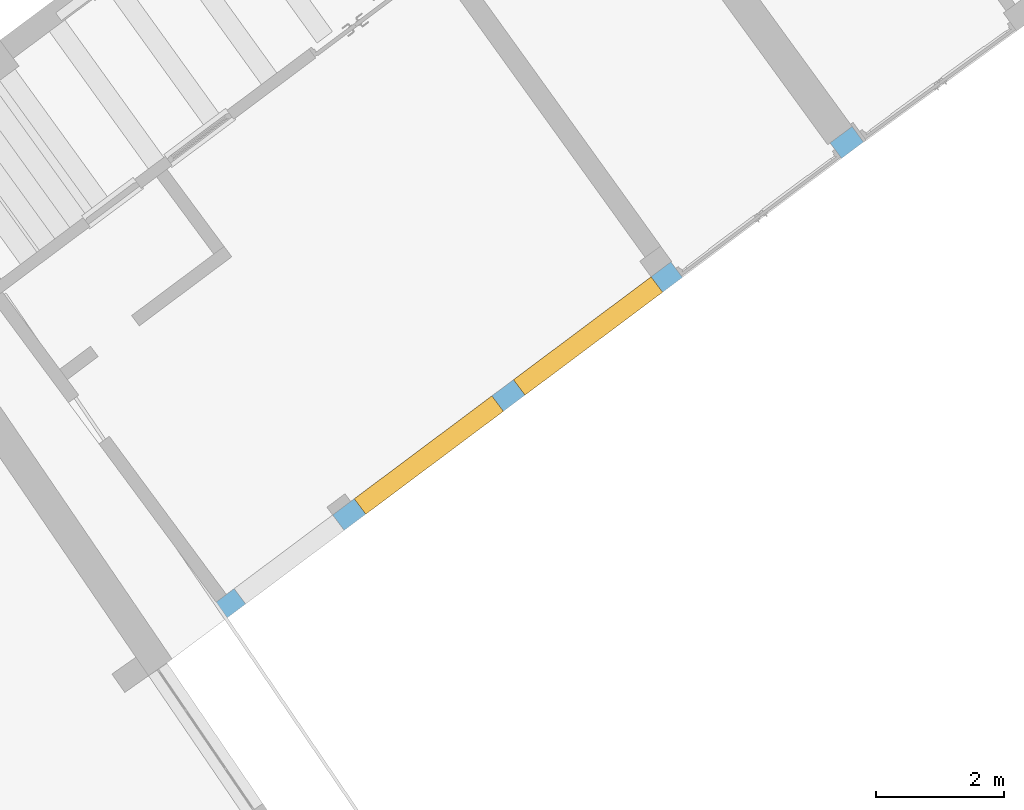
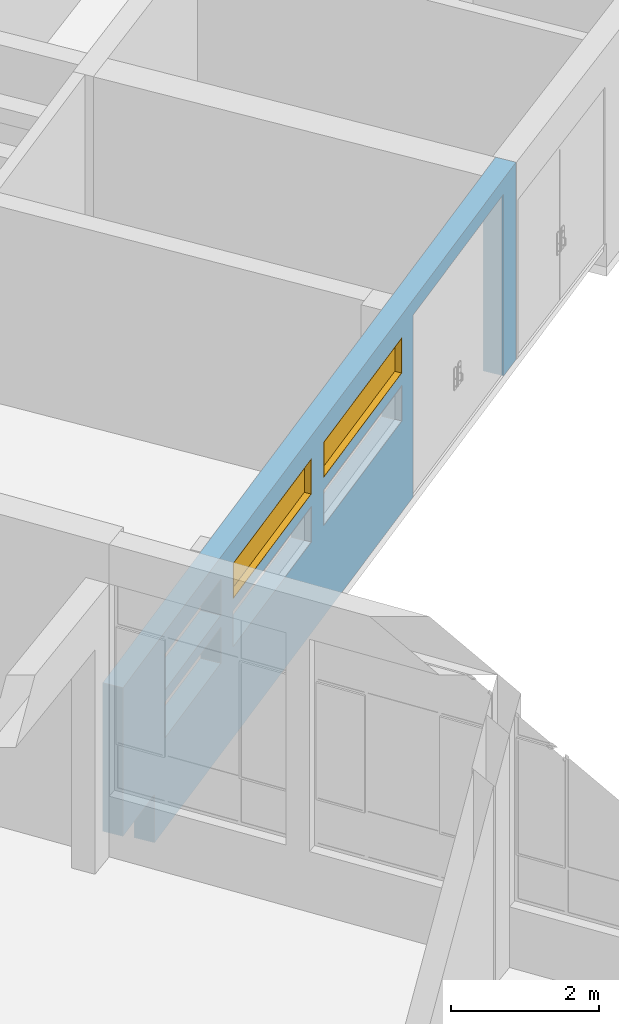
# One storey, part 137 of 157: 2 windows, 7 openings, plus 1 element that does not belong to this part.
"""IFC2X3 building model written with IfcOpenShell, lengths in millimetres."""

from ifc_helpers import new_model, entity, si_unit, converted_unit, derived_unit, direction, frame, frame_2d, origin, origin_2d_with_axis, place, context, subcontext, project, spatial, polyline, rectangle, outline, extrude, faceted_brep, source, transform, mapped, material, material_list, layer, layer_set, type_object, type_shapes, element, fill, save


model = new_model("IFC2X3")

# Units and contexts
model_context = context("Model", 3, precision=0.01, world=origin(), true_north=direction((6.123031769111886e-17, 1.0)))
body_context = subcontext(model_context, "Body", "Model", "MODEL_VIEW")
ifc_project = project(units=[si_unit("LENGTHUNIT", "METRE", prefix="MILLI"), si_unit("AREAUNIT", "SQUARE_METRE"), si_unit("VOLUMEUNIT", "CUBIC_METRE"), converted_unit("PLANEANGLEUNIT", "DEGREE", entity("IfcRatioMeasure", 0.017453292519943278), si_unit("PLANEANGLEUNIT", "RADIAN"), dimensions=[0, 0, 0, 0, 0, 0, 0]), si_unit("MASSUNIT", "GRAM", prefix="KILO"), derived_unit("MASSDENSITYUNIT", [(si_unit("MASSUNIT", "GRAM", prefix="KILO"), 1), (si_unit("LENGTHUNIT", "METRE"), -3)]), derived_unit("MOMENTOFINERTIAUNIT", [(si_unit("LENGTHUNIT", "METRE"), 4)]), si_unit("TIMEUNIT", "SECOND"), si_unit("FREQUENCYUNIT", "HERTZ"), si_unit("THERMODYNAMICTEMPERATUREUNIT", "DEGREE_CELSIUS"), derived_unit("THERMALTRANSMITTANCEUNIT", [(si_unit("MASSUNIT", "GRAM", prefix="KILO"), 1), (si_unit("THERMODYNAMICTEMPERATUREUNIT", "KELVIN"), -1), (si_unit("TIMEUNIT", "SECOND"), -3)]), derived_unit("THERMALCONDUCTANCEUNIT", [(si_unit("MASSUNIT", "GRAM", prefix="KILO"), 1), (si_unit("LENGTHUNIT", "METRE"), 1), (si_unit("THERMODYNAMICTEMPERATUREUNIT", "KELVIN"), -1), (si_unit("TIMEUNIT", "SECOND"), -3)]), derived_unit("VOLUMETRICFLOWRATEUNIT", [(si_unit("LENGTHUNIT", "METRE"), 3), (si_unit("TIMEUNIT", "SECOND"), -1)]), derived_unit("MASSFLOWRATEUNIT", [(si_unit("MASSUNIT", "GRAM", prefix="KILO"), 1), (si_unit("TIMEUNIT", "SECOND"), -1)]), derived_unit("ROTATIONALFREQUENCYUNIT", [(si_unit("TIMEUNIT", "SECOND"), -1)]), si_unit("ELECTRICCURRENTUNIT", "AMPERE"), si_unit("ELECTRICVOLTAGEUNIT", "VOLT"), si_unit("POWERUNIT", "WATT"), converted_unit("FORCEUNIT", "KIP", entity("IfcRatioMeasure", 2.088543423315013e-05), si_unit("FORCEUNIT", "NEWTON"), dimensions=[1, 1, -2, 0, 0, 0, 0]), si_unit("ILLUMINANCEUNIT", "LUX"), si_unit("LUMINOUSFLUXUNIT", "LUMEN"), si_unit("LUMINOUSINTENSITYUNIT", "CANDELA"), derived_unit("USERDEFINED", [(si_unit("MASSUNIT", "GRAM", prefix="KILO"), -1), (si_unit("LENGTHUNIT", "METRE"), -2), (si_unit("TIMEUNIT", "SECOND"), 3), (si_unit("LUMINOUSFLUXUNIT", "LUMEN"), 1)]), derived_unit("USERDEFINED", [(si_unit("MASSUNIT", "GRAM", prefix="KILO"), 1), (si_unit("LENGTHUNIT", "METRE"), 3), (si_unit("TIMEUNIT", "SECOND"), -3), (si_unit("ELECTRICCURRENTUNIT", "AMPERE"), -2)]), derived_unit("USERDEFINED", [(si_unit("LENGTHUNIT", "METRE"), 2), (si_unit("TIMEUNIT", "SECOND"), -2)]), derived_unit("SOUNDPOWERUNIT", [(si_unit("MASSUNIT", "GRAM", prefix="KILO"), 1), (si_unit("LENGTHUNIT", "METRE"), 2), (si_unit("TIMEUNIT", "SECOND"), -3)]), derived_unit("SOUNDPRESSUREUNIT", [(si_unit("MASSUNIT", "GRAM", prefix="KILO"), 1), (si_unit("LENGTHUNIT", "METRE"), -1), (si_unit("TIMEUNIT", "SECOND"), -2)]), derived_unit("LINEARVELOCITYUNIT", [(si_unit("LENGTHUNIT", "METRE"), 1), (si_unit("TIMEUNIT", "SECOND"), -1)]), si_unit("PRESSUREUNIT", "PASCAL"), derived_unit("USERDEFINED", [(si_unit("LENGTHUNIT", "METRE"), -2), (si_unit("MASSUNIT", "GRAM", prefix="KILO"), 1), (si_unit("TIMEUNIT", "SECOND"), -2)]), derived_unit("LINEARFORCEUNIT", [(si_unit("MASSUNIT", "GRAM", prefix="KILO"), 1), (si_unit("LENGTHUNIT", "METRE"), 1), (si_unit("TIMEUNIT", "SECOND"), -2), (si_unit("LENGTHUNIT", "METRE"), -1)]), derived_unit("PLANARFORCEUNIT", [(si_unit("MASSUNIT", "GRAM", prefix="KILO"), 1), (si_unit("LENGTHUNIT", "METRE"), 1), (si_unit("TIMEUNIT", "SECOND"), -2), (si_unit("LENGTHUNIT", "METRE"), -2)]), derived_unit("SPECIFICHEATCAPACITYUNIT", [(si_unit("LENGTHUNIT", "METRE"), 2), (si_unit("TIMEUNIT", "SECOND"), -2), (si_unit("THERMODYNAMICTEMPERATUREUNIT", "KELVIN"), -1)]), derived_unit("VAPORPERMEABILITYUNIT", [(si_unit("TIMEUNIT", "SECOND"), 1), (si_unit("LENGTHUNIT", "METRE"), -1)]), derived_unit("DYNAMICVISCOSITYUNIT", [(si_unit("MASSUNIT", "GRAM", prefix="KILO"), 1), (si_unit("LENGTHUNIT", "METRE"), -1), (si_unit("TIMEUNIT", "SECOND"), -1)]), derived_unit("THERMALEXPANSIONCOEFFICIENTUNIT", [(si_unit("THERMODYNAMICTEMPERATUREUNIT", "KELVIN"), -1)])], contexts=[model_context])

# Site, building, storey
site_placement = place(None, frame((0.0, 0.0, 0.0), z_axis=(0.0, 0.0, 1.0), x_axis=(0.8191520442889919, 0.5735764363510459, 0.0)))
site = spatial("IfcSite", under=ifc_project, at=site_placement, Name="Default", CompositionType="ELEMENT")
building_placement = place(site_placement, origin())
building = spatial("IfcBuilding", under=site, at=building_placement, CompositionType="ELEMENT")
storey_placement = place(building_placement, origin())
storey = spatial("IfcBuildingStorey", under=building, at=storey_placement, Name="1.EG +0.00", CompositionType="ELEMENT", Elevation=-4.331468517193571e-12)

# Wall, openings, windows
ifc_material_1 = material(Name="Analytical Wall Surface_CJC")
ifc_layer = layer(ifc_material_1, 300.0)
ifc_layer_set = layer_set([ifc_layer], Name="Basic Wall:Wand_Aussen_30")
wall_type = type_object("IfcWallType", Name="Basic Wall:Wand_Aussen_30", PredefinedType="STANDARD", material=ifc_layer_set)
wall_placement = place(storey_placement, frame((-204115.16931109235, 157974.41195440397, -750.0), z_axis=(0.0, 0.0, 1.0), x_axis=(0.9995120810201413, 0.031234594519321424, 0.0)))
wall = element("IfcWall", 1, at=wall_placement, inside=storey, type_object=wall_type, Name="Basic Wall:Wand_Aussen_30", ObjectType="Basic Wall:Wand_Aussen_30", context=body_context, shape_type="Brep", body=[
    faceted_brep([(13462.146148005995, -150.0, 3250.0), (0.0, -150.0, 3250.0), (0.0, -150.0, 800.0), (1079.6115661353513, -150.0, 800.0), (1079.6115661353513, -150.0, 0.0), (9937.425197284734, -150.0, 0.0), (9937.425197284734, -150.0, 3000.0), (13037.425197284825, -150.0, 3000.0), (13037.425197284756, -150.0, 0.0), (13462.146148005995, -150.0, 0.0), (6451.92844655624, -150.0, 1500.0), (3771.928446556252, -150.0, 1500.0), (3771.928446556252, -150.0, 2090.0), (6451.92844655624, -150.0, 2090.0), (9551.928446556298, -150.0, 1500.0), (6871.928446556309, -150.0, 1500.0), (6871.928446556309, -150.0, 2090.0), (9551.928446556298, -150.0, 2090.0), (3351.9284465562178, -150.0, 1500.0), (1431.928446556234, -150.0, 1500.0), (1431.928446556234, -150.0, 2090.0), (3351.9284465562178, -150.0, 2090.0), (3351.9284465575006, -150.0, 2880.0), (3351.9284465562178, -150.0, 2290.0), (1431.928446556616, -150.0, 2290.0), (1431.9284465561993, -150.0, 2880.0), (9551.928446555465, -150.0, 2880.0), (9551.928446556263, -150.0, 2290.0), (6871.928446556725, -150.0, 2290.0), (6871.928446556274, -150.0, 2880.0), (6451.928446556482, -150.0, 2880.0), (6451.928446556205, -150.0, 2290.0), (3771.9284465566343, -150.0, 2290.0), (3771.9284465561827, -150.0, 2880.0), (0.0, 150.0, 3250.0), (1081.098058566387, 150.0, 3250.0), (1281.100513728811, 150.0, 3250.0), (3351.9284465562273, 150.0, 3250.0), (3701.9284465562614, 150.0, 3250.0), (9551.928446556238, 150.0, 3250.0), (9951.967355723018, 150.0, 3250.0), (12990.91558234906, 150.0, 3250.0), (13465.953840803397, 150.0, 3250.0), (13465.953840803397, 150.0, 0.0), (13037.425197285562, 150.0, 0.0), (13037.42519728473, 150.0, 3000.0), (9937.425197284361, 150.0, 3000.0), (9937.425197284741, 150.0, 0.0), (1281.100513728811, 150.0, 0.0), (1081.098058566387, 150.0, 0.0), (1081.098058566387, 150.0, 800.0), (0.0, 150.0, 800.0), (6451.928446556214, 150.0, 1500.0), (6451.928446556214, 150.0, 2090.0), (3771.9284465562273, 150.0, 2090.0), (3771.9284465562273, 150.0, 1500.0), (9551.928446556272, 150.0, 1500.0), (9551.928446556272, 150.0, 2090.0), (6871.928446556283, 150.0, 2090.0), (6871.928446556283, 150.0, 1500.0), (3351.9284465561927, 150.0, 1500.0), (3351.9284465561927, 150.0, 2090.0), (1431.9284465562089, 150.0, 2090.0), (1431.9284465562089, 150.0, 1500.0), (9551.928446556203, 150.0, 2290.0), (9551.928446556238, 150.0, 2880.0), (6871.928446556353, 150.0, 2880.0), (6871.928446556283, 150.0, 2290.0), (6451.928446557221, 150.0, 2290.0), (6451.928446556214, 150.0, 2880.0), (3771.928446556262, 150.0, 2880.0), (3771.9284465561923, 150.0, 2290.0), (3351.9284465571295, 150.0, 2290.0), (3351.9284465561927, 150.0, 2880.0), (1431.9284465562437, 150.0, 2880.0), (1431.9284465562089, 150.0, 2290.0)], [[[0, 1, 2, 3, 4, 5, 6, 7, 8, 9], [10, 11, 12, 13], [14, 15, 16, 17], [18, 19, 20, 21], [22, 23, 24, 25], [26, 27, 28, 29], [30, 31, 32, 33]], [[34, 35, 36, 37, 38, 39, 40, 41, 42, 43, 44, 45, 46, 47, 48, 49, 50, 51], [52, 53, 54, 55], [56, 57, 58, 59], [60, 61, 62, 63], [64, 65, 66, 67], [68, 69, 70, 71], [72, 73, 74, 75]], [[0, 9, 43, 42]], [[4, 49, 48, 47, 5]], [[1, 0, 42, 41, 40, 39, 38, 37, 36, 35, 34]], [[2, 1, 34, 51]], [[3, 2, 51, 50]], [[4, 3, 50, 49]], [[46, 6, 5, 47]], [[6, 46, 45, 7]], [[7, 45, 44, 8]], [[53, 52, 10, 13]], [[54, 53, 13, 12]], [[55, 54, 12, 11]], [[52, 55, 11, 10]], [[57, 56, 14, 17]], [[58, 57, 17, 16]], [[59, 58, 16, 15]], [[56, 59, 15, 14]], [[61, 60, 18, 21]], [[62, 61, 21, 20]], [[63, 62, 20, 19]], [[60, 63, 19, 18]], [[72, 23, 22, 73]], [[73, 22, 25, 74]], [[74, 25, 24, 75]], [[23, 72, 75, 24]], [[64, 27, 26, 65]], [[65, 26, 29, 66]], [[28, 67, 66, 29]], [[27, 64, 67, 28]], [[68, 31, 30, 69]], [[69, 30, 33, 70]], [[32, 71, 70, 33]], [[31, 68, 71, 32]], [[43, 9, 8, 44]]]),
])
opening_1_placement = place(wall_placement, frame((13037.425197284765, 150.0, 0.0)))
element("IfcOpeningElement", 2, at=opening_1_placement, cuts=wall, Name="M_Door-Exterior-Double:300x290:1", ObjectType="Opening", context=body_context, shape_type="SweptSolid", body=[
    extrude(rectangle(XDim=3000.0, YDim=3099.999999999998, at=frame_2d((1500.0, 1549.999999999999), x_axis=(1.0, 0.0))), frame((0.0, 0.0, 0.0), z_axis=(0.0, -1.0, 0.0), x_axis=(0.0, 0.0, 1.0)), (0.0, 0.0, 1.0), 300.0),
])
opening_2_placement = place(wall_placement, frame((6451.928446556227, 150.0, 1500.0)))
element("IfcOpeningElement", 3, at=opening_2_placement, cuts=wall, Name="WINDOW_Glass_Block:WINDOW_Glass_Block_14x3:1", ObjectType="Opening", context=body_context, shape_type="SweptSolid", body=[
    extrude(rectangle(XDim=589.9999999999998, YDim=2679.999999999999, at=frame_2d((294.99999999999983, 1339.9999999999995), x_axis=(1.0, 0.0))), frame((0.0, 0.0, 0.0), z_axis=(0.0, -1.0, 0.0), x_axis=(0.0, 0.0, 1.0)), (0.0, 0.0, 1.0), 300.0),
])
opening_3_placement = place(wall_placement, frame((9551.928446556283, 150.0, 1500.0)))
element("IfcOpeningElement", 4, at=opening_3_placement, cuts=wall, Name="WINDOW_Glass_Block:WINDOW_Glass_Block_14x3:1", ObjectType="Opening", context=body_context, shape_type="SweptSolid", body=[
    extrude(rectangle(XDim=589.9999999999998, YDim=2679.999999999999, at=frame_2d((294.99999999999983, 1339.9999999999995), x_axis=(1.0, 0.0))), frame((0.0, 0.0, 0.0), z_axis=(0.0, -1.0, 0.0), x_axis=(0.0, 0.0, 1.0)), (0.0, 0.0, 1.0), 300.0),
])
opening_4_placement = place(wall_placement, frame((3351.92844655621, 150.0, 1500.0)))
element("IfcOpeningElement", 5, at=opening_4_placement, cuts=wall, Name="WINDOW_Glass_Block:WINDOW_Glass_Block_10x3:1", ObjectType="Opening", context=body_context, shape_type="SweptSolid", body=[
    extrude(rectangle(XDim=589.9999999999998, YDim=1920.0, at=frame_2d((294.99999999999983, 960.0), x_axis=(1.0, 0.0))), frame((0.0, 0.0, 0.0), z_axis=(0.0, -1.0, 0.0), x_axis=(0.0, 0.0, 1.0)), (0.0, 0.0, 1.0), 300.0),
])
opening_5_placement = place(wall_placement, frame((6451.928446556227, 150.0, 2290.0)))
opening_5 = element("IfcOpeningElement", 6, at=opening_5_placement, cuts=wall, Name="WINDOW_Glass_Block:WINDOW_Glass_Block_14x3:1", ObjectType="Opening", context=body_context, shape_type="SweptSolid", body=[
    extrude(rectangle(XDim=589.9999999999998, YDim=2679.999999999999, at=frame_2d((294.99999999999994, 1339.9999999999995), x_axis=(1.0, 0.0))), frame((0.0, 0.0, 0.0), z_axis=(0.0, -1.0, 0.0), x_axis=(0.0, 0.0, 1.0)), (0.0, 0.0, 1.0), 300.0),
])
opening_6_placement = place(wall_placement, frame((9551.928446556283, 150.0, 2290.0)))
opening_6 = element("IfcOpeningElement", 7, at=opening_6_placement, cuts=wall, Name="WINDOW_Glass_Block:WINDOW_Glass_Block_14x3:1", ObjectType="Opening", context=body_context, shape_type="SweptSolid", body=[
    extrude(rectangle(XDim=589.9999999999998, YDim=2679.999999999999, at=frame_2d((294.99999999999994, 1339.9999999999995), x_axis=(1.0, 0.0))), frame((0.0, 0.0, 0.0), z_axis=(0.0, -1.0, 0.0), x_axis=(0.0, 0.0, 1.0)), (0.0, 0.0, 1.0), 300.0),
])
opening_7_placement = place(wall_placement, frame((3351.92844655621, 150.0, 2290.0)))
element("IfcOpeningElement", 8, at=opening_7_placement, cuts=wall, Name="WINDOW_Glass_Block:WINDOW_Glass_Block_10x3:1", ObjectType="Opening", context=body_context, shape_type="SweptSolid", body=[
    extrude(rectangle(XDim=589.9999999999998, YDim=1920.0, at=frame_2d((294.99999999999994, 960.0), x_axis=(1.0, 0.0))), frame((0.0, 0.0, 0.0), z_axis=(0.0, -1.0, 0.0), x_axis=(0.0, 0.0, 1.0)), (0.0, 0.0, 1.0), 300.0),
])
ifc_material_2 = material(Name="Glass")
ifc_material_3 = material(Name="Wood")
ifc_material_list = material_list([ifc_material_2, ifc_material_3])
window_style = type_object("IfcWindowStyle", Name="WINDOW_Glass_Block:WINDOW_Glass_Block_14x3", ConstructionType="NOTDEFINED", OperationType="NOTDEFINED", ParameterTakesPrecedence=False, Sizeable=False, material=ifc_material_list)
shared_shape = source(origin(), body_context, "Body", "SweptSolid", [
    extrude(rectangle(XDim=190.0, YDim=100.0, at=frame_2d((6.394884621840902e-14, 0.0), x_axis=(1.0, 0.0))), frame((2385.0, 150.0, 200.0), z_axis=(0.0, 0.0, 1.0), x_axis=(-1.0, 0.0, 0.0)), (0.0, 0.0, 1.0), 189.99999999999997),
    extrude(rectangle(XDim=190.0, YDim=100.0, at=frame_2d((-6.394884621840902e-14, 0.0), x_axis=(1.0, 0.0))), frame((2195.0, 150.0, 200.0), z_axis=(0.0, 0.0, 1.0), x_axis=(-1.0, 0.0, 0.0)), (0.0, 0.0, 1.0), 189.99999999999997),
    extrude(rectangle(XDim=190.0, YDim=100.0, at=frame_2d((6.394884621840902e-14, 0.0), x_axis=(1.0, 0.0))), frame((2005.0, 150.0, 200.0), z_axis=(0.0, 0.0, 1.0), x_axis=(-1.0, 0.0, 0.0)), (0.0, 0.0, 1.0), 189.99999999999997),
    extrude(rectangle(XDim=190.0, YDim=100.0, at=frame_2d((-6.394884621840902e-14, 0.0), x_axis=(1.0, 0.0))), frame((1815.0, 150.0, 200.0), z_axis=(0.0, 0.0, 1.0), x_axis=(-1.0, 0.0, 0.0)), (0.0, 0.0, 1.0), 189.99999999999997),
    extrude(rectangle(XDim=189.99999999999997, YDim=100.0, at=origin_2d_with_axis()), frame((1625.0, 150.0, 200.0), z_axis=(0.0, 0.0, 1.0), x_axis=(-1.0, 0.0, 0.0)), (0.0, 0.0, 1.0), 189.99999999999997),
    extrude(rectangle(XDim=190.00000000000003, YDim=100.0, at=origin_2d_with_axis()), frame((1435.0, 150.0, 200.0), z_axis=(0.0, 0.0, 1.0), x_axis=(-1.0, 0.0, 0.0)), (0.0, 0.0, 1.0), 189.99999999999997),
    extrude(rectangle(XDim=190.0, YDim=100.0, at=frame_2d((-2.1316282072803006e-14, 0.0), x_axis=(1.0, 0.0))), frame((1245.0, 150.0, 200.0), z_axis=(0.0, 0.0, 1.0), x_axis=(-1.0, 0.0, 0.0)), (0.0, 0.0, 1.0), 189.99999999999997),
    extrude(rectangle(XDim=190.0, YDim=100.0, at=frame_2d((-2.1316282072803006e-14, 0.0), x_axis=(1.0, 0.0))), frame((1055.0, 150.0, 200.0), z_axis=(0.0, 0.0, 1.0), x_axis=(-1.0, 0.0, 0.0)), (0.0, 0.0, 1.0), 189.99999999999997),
    extrude(rectangle(XDim=190.0, YDim=100.0, at=frame_2d((-6.394884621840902e-14, 0.0), x_axis=(1.0, 0.0))), frame((865.0, 150.0, 200.0), z_axis=(0.0, 0.0, 1.0), x_axis=(-1.0, 0.0, 0.0)), (0.0, 0.0, 1.0), 189.99999999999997),
    extrude(rectangle(XDim=190.0, YDim=100.0, at=frame_2d((6.394884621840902e-14, 0.0), x_axis=(1.0, 0.0))), frame((675.0, 150.0, 200.0), z_axis=(0.0, 0.0, 1.0), x_axis=(-1.0, 0.0, 0.0)), (0.0, 0.0, 1.0), 189.99999999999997),
    extrude(rectangle(XDim=190.0, YDim=100.0, at=frame_2d((-6.394884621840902e-14, 0.0), x_axis=(1.0, 0.0))), frame((485.0, 150.0, 200.0), z_axis=(0.0, 0.0, 1.0), x_axis=(-1.0, 0.0, 0.0)), (0.0, 0.0, 1.0), 189.99999999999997),
    extrude(rectangle(XDim=190.0, YDim=100.0, at=frame_2d((-6.394884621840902e-14, 0.0), x_axis=(1.0, 0.0))), frame((295.0, 150.0, 200.0), z_axis=(0.0, 0.0, 1.0), x_axis=(-1.0, 0.0, 0.0)), (0.0, 0.0, 1.0), 189.99999999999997),
    extrude(rectangle(XDim=190.0000000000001, YDim=100.0, at=origin_2d_with_axis()), frame((2575.0, 150.0, 200.0), z_axis=(0.0, 0.0, 1.0), x_axis=(-1.0, 0.0, 0.0)), (0.0, 0.0, 1.0), 189.99999999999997),
    extrude(rectangle(XDim=190.0, YDim=100.0, at=frame_2d((6.394884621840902e-14, 0.0), x_axis=(1.0, 0.0))), frame((105.0, 150.0, 200.0), z_axis=(0.0, 0.0, 1.0), x_axis=(-1.0, 0.0, 0.0)), (0.0, 0.0, 1.0), 189.99999999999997),
    extrude(rectangle(XDim=190.0, YDim=100.0, at=frame_2d((6.394884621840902e-14, 0.0), x_axis=(1.0, 0.0))), frame((2385.0, 150.0, 390.0), z_axis=(0.0, 0.0, 1.0), x_axis=(-1.0, 0.0, 0.0)), (0.0, 0.0, 1.0), 190.0000000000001),
    extrude(rectangle(XDim=190.0, YDim=100.0, at=frame_2d((-6.394884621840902e-14, 0.0), x_axis=(1.0, 0.0))), frame((2195.0, 150.0, 390.0), z_axis=(0.0, 0.0, 1.0), x_axis=(-1.0, 0.0, 0.0)), (0.0, 0.0, 1.0), 190.0000000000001),
    extrude(rectangle(XDim=190.0, YDim=100.0, at=frame_2d((6.394884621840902e-14, 0.0), x_axis=(1.0, 0.0))), frame((2005.0, 150.0, 390.0), z_axis=(0.0, 0.0, 1.0), x_axis=(-1.0, 0.0, 0.0)), (0.0, 0.0, 1.0), 190.0000000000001),
    extrude(rectangle(XDim=190.0, YDim=100.0, at=frame_2d((-6.394884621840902e-14, 0.0), x_axis=(1.0, 0.0))), frame((1815.0, 150.0, 390.0), z_axis=(0.0, 0.0, 1.0), x_axis=(-1.0, 0.0, 0.0)), (0.0, 0.0, 1.0), 190.0000000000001),
    extrude(rectangle(XDim=189.99999999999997, YDim=100.0, at=origin_2d_with_axis()), frame((1625.0, 150.0, 390.0), z_axis=(0.0, 0.0, 1.0), x_axis=(-1.0, 0.0, 0.0)), (0.0, 0.0, 1.0), 190.0000000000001),
    extrude(rectangle(XDim=190.00000000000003, YDim=100.0, at=origin_2d_with_axis()), frame((1435.0, 150.0, 390.0), z_axis=(0.0, 0.0, 1.0), x_axis=(-1.0, 0.0, 0.0)), (0.0, 0.0, 1.0), 190.0000000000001),
    extrude(rectangle(XDim=190.0, YDim=100.0, at=frame_2d((-2.1316282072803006e-14, 0.0), x_axis=(1.0, 0.0))), frame((1245.0, 150.0, 390.0), z_axis=(0.0, 0.0, 1.0), x_axis=(-1.0, 0.0, 0.0)), (0.0, 0.0, 1.0), 190.0000000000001),
    extrude(rectangle(XDim=190.0, YDim=100.0, at=frame_2d((-2.1316282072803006e-14, 0.0), x_axis=(1.0, 0.0))), frame((1055.0, 150.0, 390.0), z_axis=(0.0, 0.0, 1.0), x_axis=(-1.0, 0.0, 0.0)), (0.0, 0.0, 1.0), 190.0000000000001),
    extrude(rectangle(XDim=190.0, YDim=100.0, at=frame_2d((-6.394884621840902e-14, 0.0), x_axis=(1.0, 0.0))), frame((865.0, 150.0, 390.0), z_axis=(0.0, 0.0, 1.0), x_axis=(-1.0, 0.0, 0.0)), (0.0, 0.0, 1.0), 190.0000000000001),
    extrude(rectangle(XDim=190.0, YDim=100.0, at=frame_2d((6.394884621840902e-14, 0.0), x_axis=(1.0, 0.0))), frame((675.0, 150.0, 390.0), z_axis=(0.0, 0.0, 1.0), x_axis=(-1.0, 0.0, 0.0)), (0.0, 0.0, 1.0), 190.0000000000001),
    extrude(rectangle(XDim=190.0, YDim=100.0, at=frame_2d((-6.394884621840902e-14, 0.0), x_axis=(1.0, 0.0))), frame((485.0, 150.0, 390.0), z_axis=(0.0, 0.0, 1.0), x_axis=(-1.0, 0.0, 0.0)), (0.0, 0.0, 1.0), 190.0000000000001),
    extrude(rectangle(XDim=190.0, YDim=100.0, at=frame_2d((-6.394884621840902e-14, 0.0), x_axis=(1.0, 0.0))), frame((295.0, 150.0, 390.0), z_axis=(0.0, 0.0, 1.0), x_axis=(-1.0, 0.0, 0.0)), (0.0, 0.0, 1.0), 190.0000000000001),
    extrude(rectangle(XDim=190.0000000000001, YDim=100.0, at=origin_2d_with_axis()), frame((2575.0, 150.0, 390.0), z_axis=(0.0, 0.0, 1.0), x_axis=(-1.0, 0.0, 0.0)), (0.0, 0.0, 1.0), 190.0000000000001),
    extrude(rectangle(XDim=190.0, YDim=100.0, at=frame_2d((6.394884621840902e-14, 0.0), x_axis=(1.0, 0.0))), frame((105.0, 150.0, 390.0), z_axis=(0.0, 0.0, 1.0), x_axis=(-1.0, 0.0, 0.0)), (0.0, 0.0, 1.0), 190.0000000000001),
    extrude(rectangle(XDim=190.0, YDim=100.0, at=frame_2d((6.394884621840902e-14, 0.0), x_axis=(1.0, 0.0))), frame((2385.0, 150.0, 10.0), z_axis=(0.0, 0.0, 1.0), x_axis=(-1.0, 0.0, 0.0)), (0.0, 0.0, 1.0), 189.99999999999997),
    extrude(rectangle(XDim=190.0, YDim=100.0, at=frame_2d((-6.394884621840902e-14, 0.0), x_axis=(1.0, 0.0))), frame((2195.0, 150.0, 10.0), z_axis=(0.0, 0.0, 1.0), x_axis=(-1.0, 0.0, 0.0)), (0.0, 0.0, 1.0), 189.99999999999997),
    extrude(rectangle(XDim=190.0, YDim=100.0, at=frame_2d((6.394884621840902e-14, 0.0), x_axis=(1.0, 0.0))), frame((2005.0, 150.0, 10.0), z_axis=(0.0, 0.0, 1.0), x_axis=(-1.0, 0.0, 0.0)), (0.0, 0.0, 1.0), 189.99999999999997),
    extrude(rectangle(XDim=190.0, YDim=100.0, at=frame_2d((-6.394884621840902e-14, 0.0), x_axis=(1.0, 0.0))), frame((1815.0, 150.0, 10.0), z_axis=(0.0, 0.0, 1.0), x_axis=(-1.0, 0.0, 0.0)), (0.0, 0.0, 1.0), 189.99999999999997),
    extrude(rectangle(XDim=189.99999999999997, YDim=100.0, at=origin_2d_with_axis()), frame((1625.0, 150.0, 10.0), z_axis=(0.0, 0.0, 1.0), x_axis=(-1.0, 0.0, 0.0)), (0.0, 0.0, 1.0), 189.99999999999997),
    extrude(rectangle(XDim=190.00000000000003, YDim=100.0, at=origin_2d_with_axis()), frame((1435.0, 150.0, 10.0), z_axis=(0.0, 0.0, 1.0), x_axis=(-1.0, 0.0, 0.0)), (0.0, 0.0, 1.0), 189.99999999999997),
    extrude(rectangle(XDim=190.0, YDim=100.0, at=frame_2d((-2.1316282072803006e-14, 0.0), x_axis=(1.0, 0.0))), frame((1245.0, 150.0, 10.0), z_axis=(0.0, 0.0, 1.0), x_axis=(-1.0, 0.0, 0.0)), (0.0, 0.0, 1.0), 189.99999999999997),
    extrude(rectangle(XDim=190.0, YDim=100.0, at=frame_2d((-2.1316282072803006e-14, 0.0), x_axis=(1.0, 0.0))), frame((1055.0, 150.0, 10.0), z_axis=(0.0, 0.0, 1.0), x_axis=(-1.0, 0.0, 0.0)), (0.0, 0.0, 1.0), 189.99999999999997),
    extrude(rectangle(XDim=190.0, YDim=100.0, at=frame_2d((-6.394884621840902e-14, 0.0), x_axis=(1.0, 0.0))), frame((865.0, 150.0, 10.0), z_axis=(0.0, 0.0, 1.0), x_axis=(-1.0, 0.0, 0.0)), (0.0, 0.0, 1.0), 189.99999999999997),
    extrude(rectangle(XDim=190.0, YDim=100.0, at=frame_2d((6.394884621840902e-14, 0.0), x_axis=(1.0, 0.0))), frame((675.0, 150.0, 10.0), z_axis=(0.0, 0.0, 1.0), x_axis=(-1.0, 0.0, 0.0)), (0.0, 0.0, 1.0), 189.99999999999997),
    extrude(rectangle(XDim=190.0, YDim=100.0, at=frame_2d((-6.394884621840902e-14, 0.0), x_axis=(1.0, 0.0))), frame((485.0, 150.0, 10.0), z_axis=(0.0, 0.0, 1.0), x_axis=(-1.0, 0.0, 0.0)), (0.0, 0.0, 1.0), 189.99999999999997),
    extrude(rectangle(XDim=190.0, YDim=100.0, at=frame_2d((-6.394884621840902e-14, 0.0), x_axis=(1.0, 0.0))), frame((295.0, 150.0, 10.0), z_axis=(0.0, 0.0, 1.0), x_axis=(-1.0, 0.0, 0.0)), (0.0, 0.0, 1.0), 189.99999999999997),
    extrude(rectangle(XDim=190.0000000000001, YDim=100.0, at=origin_2d_with_axis()), frame((2575.0, 150.0, 10.0), z_axis=(0.0, 0.0, 1.0), x_axis=(-1.0, 0.0, 0.0)), (0.0, 0.0, 1.0), 189.99999999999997),
    extrude(rectangle(XDim=190.0, YDim=100.0, at=frame_2d((6.394884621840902e-14, 0.0), x_axis=(1.0, 0.0))), frame((105.0, 150.0, 10.0), z_axis=(0.0, 0.0, 1.0), x_axis=(-1.0, 0.0, 0.0)), (0.0, 0.0, 1.0), 189.99999999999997),
    extrude(outline(polyline([(-295.0, -1340.0), (295.0, -1340.0), (295.0, 1340.0), (-295.0, 1340.0), (-295.0, -1340.0)]), holes=[polyline([(-285.0, -1330.0), (-285.0, 1330.0), (285.0, 1330.0), (285.0, -1330.0), (-285.0, -1330.0)])]), frame((1340.0, 0.0, 295.0), z_axis=(0.0, 1.0, 0.0), x_axis=(0.0, 0.0, -1.0)), (0.0, 0.0, 1.0), 300.0),
])
type_shapes(window_style, [shared_shape])
window_1_placement = place(opening_5_placement, frame((0.0, 0.0, 0.0), z_axis=(0.0, 0.0, 1.0), x_axis=(-1.0, 0.0, 0.0)))
window_1 = element("IfcWindow", 9, at=window_1_placement, inside=storey, type_object=window_style, material=ifc_material_list, Name="WINDOW_Glass_Block:WINDOW_Glass_Block_14x3", ObjectType="WINDOW_Glass_Block:WINDOW_Glass_Block_14x3", OverallHeight=589.9999999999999, OverallWidth=2680.000000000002, context=body_context, shape_type="MappedRepresentation", body=[
    mapped(shared_shape, transform((0.0, 0.0, 0.0), scale=1.0)),
])
fill(opening_5, window_1)
window_2_placement = place(opening_6_placement, frame((0.0, 0.0, 0.0), z_axis=(0.0, 0.0, 1.0), x_axis=(-1.0, 0.0, 0.0)))
window_2 = element("IfcWindow", 10, at=window_2_placement, inside=storey, type_object=window_style, material=ifc_material_list, Name="WINDOW_Glass_Block:WINDOW_Glass_Block_14x3", ObjectType="WINDOW_Glass_Block:WINDOW_Glass_Block_14x3", OverallHeight=589.9999999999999, OverallWidth=2680.000000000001, context=body_context, shape_type="MappedRepresentation", body=[
    mapped(shared_shape, transform((0.0, 0.0, 0.0), scale=1.0)),
])
fill(opening_6, window_2)

save(model, "model.ifc")
